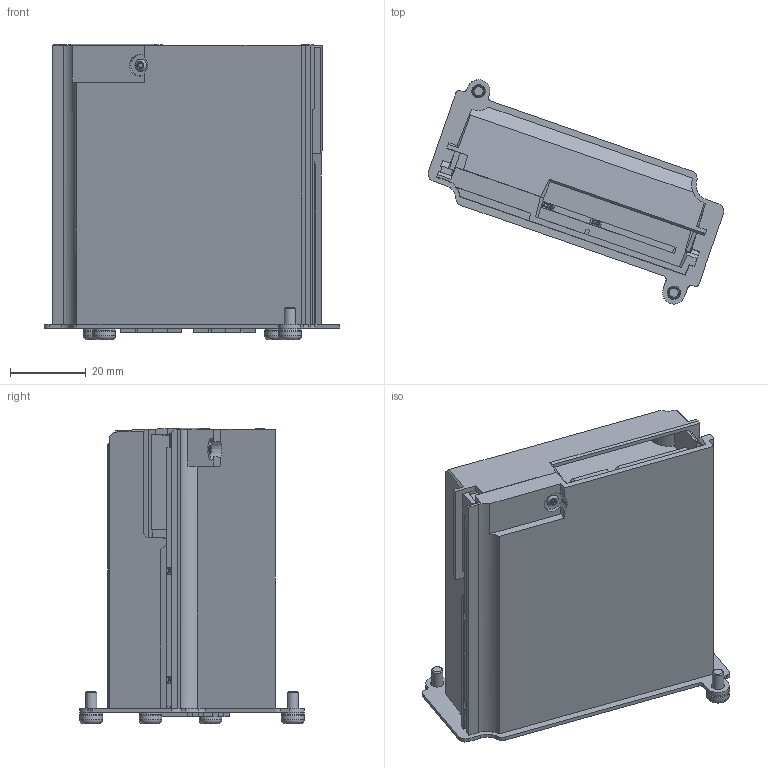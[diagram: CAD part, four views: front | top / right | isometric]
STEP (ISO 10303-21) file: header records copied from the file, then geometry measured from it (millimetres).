
FILE_DESCRIPTION(/* description */ (''),/* implementation_level */ '2;1');
FILE_NAME(/* name */ 'A:\Data\Interfaces\master slave\Int mod m-s.stp',/* time_stamp */ '2021-01-12T13:50:24+01:00',/* author */ ('Delta'),/* organization */ (''),/* preprocessor_version */ 'ST-DEVELOPER v17.2',/* originating_system */ 'Autodesk Inventor 2019',/* authorisation */ '');
FILE_SCHEMA (('AUTOMOTIVE_DESIGN { 1 0 10303 214 3 1 1 }'));
Length unit declared in the file: millimetre
Products named in the file (1): assembly interface master slave_Shrinkwrap_1
Bounding box: 77.91 x 59.05 x 77.7 mm (x, y, z)
Volume: 112865.5 mm3; surface area: 27537.7 mm2
Topology: 1 solids, 1 shells, 724 faces, 1966 edges, 1270 vertices
Faces by surface type: plane 565, cylinder 66, bspline 61, cone 22, torus 10
Full cylindrical faces by diameter (mm): 3 x6, 3.2 x4, 3.5 x4, 6 x8
Entity records: 23777 total; most frequent: CARTESIAN_POINT 5046, ORIENTED_EDGE 3924, DIRECTION 3377, EDGE_CURVE 1962, LINE 1535, VECTOR 1535, VERTEX_POINT 1270, AXIS2_PLACEMENT_3D 921
